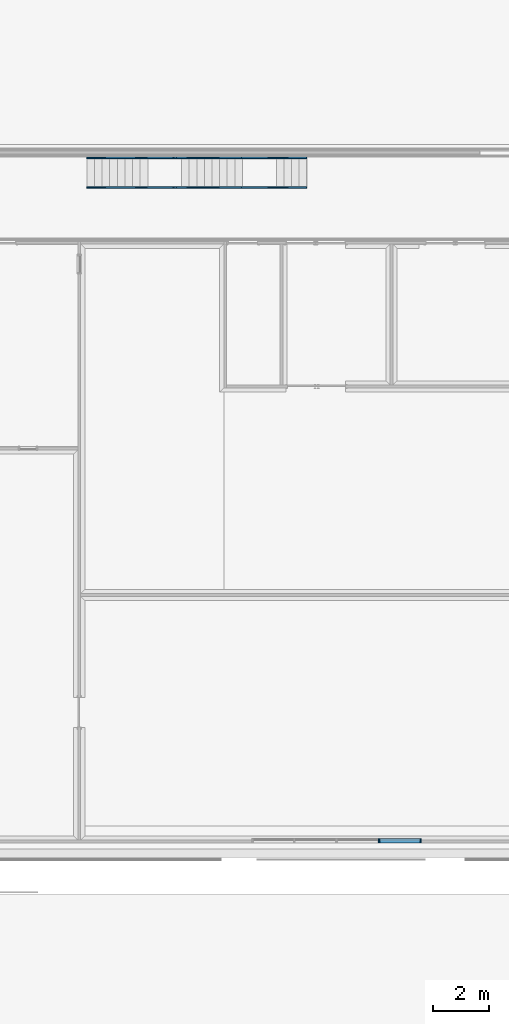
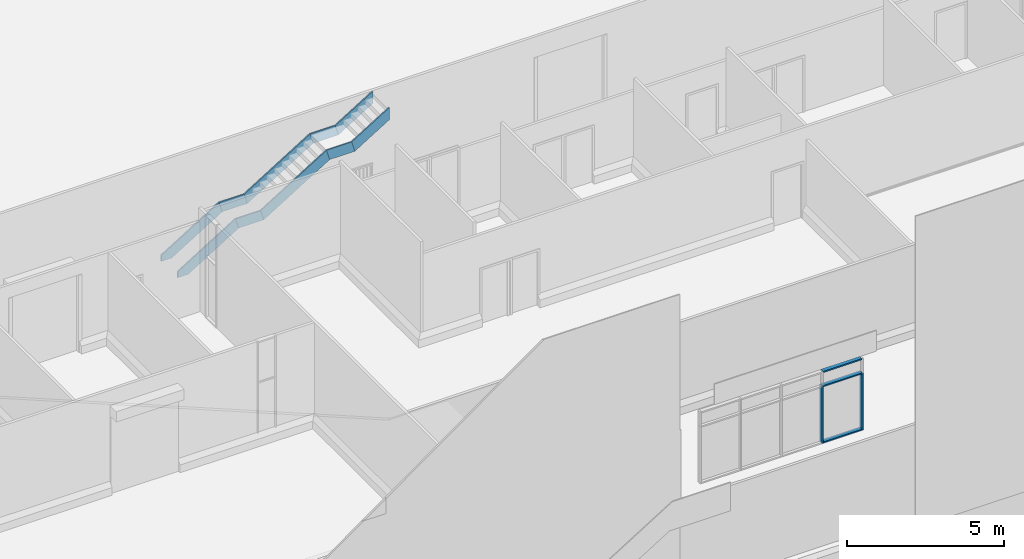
# One storey, part 5 of 64: 15 members, 2 elements without a shape of their own.
"""IFC2X3 building model written with IfcOpenShell, lengths in millimetres."""

from ifc_helpers import new_model, entity, si_unit, converted_unit, derived_unit, direction, frame, frame_2d, origin, origin_2d_with_axis, place, context, subcontext, project, spatial, polyline, rectangle, outline, extrude, material, type_object, element, aggregate, save


model = new_model("IFC2X3")

# Units and contexts
model_context = context("Model", 3, precision=0.01, world=origin(), true_north=direction((4.05803320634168e-15, -1.0)))
body_context = subcontext(model_context, "Body", "Model", "MODEL_VIEW")
ifc_project = project(units=[si_unit("LENGTHUNIT", "METRE", prefix="MILLI"), si_unit("AREAUNIT", "SQUARE_METRE"), si_unit("VOLUMEUNIT", "CUBIC_METRE"), converted_unit("PLANEANGLEUNIT", "DEGREE", entity("IfcRatioMeasure", 0.0174532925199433), si_unit("PLANEANGLEUNIT", "RADIAN"), dimensions=[0, 0, 0, 0, 0, 0, 0]), si_unit("MASSUNIT", "GRAM", prefix="KILO"), derived_unit("MASSDENSITYUNIT", [(si_unit("MASSUNIT", "GRAM", prefix="KILO"), 1), (si_unit("LENGTHUNIT", "METRE"), -3)]), si_unit("TIMEUNIT", "SECOND"), si_unit("FREQUENCYUNIT", "HERTZ"), si_unit("THERMODYNAMICTEMPERATUREUNIT", "DEGREE_CELSIUS"), derived_unit("THERMALTRANSMITTANCEUNIT", [(si_unit("MASSUNIT", "GRAM", prefix="KILO"), 1), (si_unit("THERMODYNAMICTEMPERATUREUNIT", "KELVIN"), -1), (si_unit("TIMEUNIT", "SECOND"), -3)]), derived_unit("VOLUMETRICFLOWRATEUNIT", [(si_unit("LENGTHUNIT", "METRE"), 3), (si_unit("TIMEUNIT", "SECOND"), -1)]), si_unit("ELECTRICCURRENTUNIT", "AMPERE"), si_unit("ELECTRICVOLTAGEUNIT", "VOLT"), si_unit("POWERUNIT", "WATT"), si_unit("FORCEUNIT", "NEWTON", prefix="KILO"), si_unit("ILLUMINANCEUNIT", "LUX"), si_unit("LUMINOUSFLUXUNIT", "LUMEN"), si_unit("LUMINOUSINTENSITYUNIT", "CANDELA"), derived_unit("USERDEFINED", [(si_unit("MASSUNIT", "GRAM", prefix="KILO"), -1), (si_unit("LENGTHUNIT", "METRE"), -2), (si_unit("TIMEUNIT", "SECOND"), 3), (si_unit("LUMINOUSFLUXUNIT", "LUMEN"), 1)]), derived_unit("LINEARVELOCITYUNIT", [(si_unit("LENGTHUNIT", "METRE"), 1), (si_unit("TIMEUNIT", "SECOND"), -1)]), si_unit("PRESSUREUNIT", "PASCAL"), derived_unit("USERDEFINED", [(si_unit("LENGTHUNIT", "METRE"), -2), (si_unit("MASSUNIT", "GRAM", prefix="KILO"), 1), (si_unit("TIMEUNIT", "SECOND"), -2)])], contexts=[model_context])

# Site, building, storey
site_placement = place(None, frame((927466.849349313, 583801.882853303, 0.0), z_axis=(0.0, 0.0, 1.0), x_axis=(-1.0, 0.0, 0.0)))
site = spatial("IfcSite", under=ifc_project, at=site_placement, Name="Surface", CompositionType="ELEMENT")
building_placement = place(site_placement, origin())
building = spatial("IfcBuilding", under=site, at=building_placement, CompositionType="ELEMENT")
storey_placement = place(building_placement, frame((0.0, 0.0, 44170.0)))
storey = spatial("IfcBuildingStorey", under=building, at=storey_placement, Name="Ground FFL", CompositionType="ELEMENT", Elevation=44170.0)

# Stair, members
stair_placement = place(storey_placement, origin())
stair = element("IfcStair", 1, at=stair_placement, inside=storey, Name="Assembled Stair:Stair", ObjectType="Assembled Stair:170mm max riser 270mm going", ShapeType="NOTDEFINED")
member_type = type_object("IfcMemberType", Name="Stringer:Stringer - 50mm Width", PredefinedType="STRINGER")
member_1_placement = place(stair_placement, origin())
member_1 = element("IfcMember", 2, at=member_1_placement, type_object=member_type, Name="Assembled Stair:Stair:621048 Stringer 1", ObjectType="Assembled Stair:170mm max riser 270mm going", context=body_context, shape_type="SweptSolid", body=[
    extrude(outline(polyline([(-949.937857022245, -587.215608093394), (-570.870001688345, -587.215608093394), (1292.12999831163, 562.784391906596), (1178.61571742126, 962.7843919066), (-949.937857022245, -351.137567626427), (-949.937857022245, -587.215608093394)])), frame((-106118.932358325, 13172.4703497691, 587.215608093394), z_axis=(0.0, 1.0, 0.0), x_axis=(-1.0, 0.0, 0.0)), (0.0, 0.0, 1.0), 49.9999999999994),
])
member_2_placement = place(stair_placement, origin())
member_2 = element("IfcMember", 3, at=member_2_placement, type_object=member_type, Name="Assembled Stair:Stair:621048 Stringer 2", ObjectType="Assembled Stair:170mm max riser 270mm going", context=body_context, shape_type="SweptSolid", body=[
    extrude(outline(polyline([(-949.937857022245, -587.215608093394), (-570.870001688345, -587.215608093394), (1292.12999831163, 562.784391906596), (1178.61571742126, 962.7843919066), (-949.937857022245, -351.137567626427), (-949.937857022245, -587.215608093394)])), frame((-106118.932358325, 12122.4703497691, 587.215608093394), z_axis=(0.0, 1.0, 0.0), x_axis=(-1.0, 0.0, 0.0)), (0.0, 0.0, 1.0), 49.9999999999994),
])
member_3_placement = place(stair_placement, origin())
member_3 = element("IfcMember", 4, at=member_3_placement, type_object=member_type, Name="Assembled Stair:Stair:621048 Stringer 3", ObjectType="Assembled Stair:170mm max riser 270mm going", context=body_context, shape_type="SweptSolid", body=[
    extrude(outline(polyline([(-1484.59641711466, -200.0), (1371.08213622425, -200.0), (1484.59641711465, 200.0), (-1371.08213622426, 200.0), (-1484.59641711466, -200.0)])), frame((-109499.250726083, 13172.4703497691, 2100.0), z_axis=(0.0, 1.0, 0.0), x_axis=(-0.850936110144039, 0.0, 0.525269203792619)), (0.0, 0.0, 1.0), 49.9999999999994),
])
member_4_placement = place(stair_placement, origin())
member_4 = element("IfcMember", 5, at=member_4_placement, type_object=member_type, Name="Assembled Stair:Stair:621048 Stringer 4", ObjectType="Assembled Stair:170mm max riser 270mm going", context=body_context, shape_type="SweptSolid", body=[
    extrude(outline(polyline([(-1484.59641711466, -200.0), (1371.08213622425, -200.0), (1484.59641711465, 200.0), (-1371.08213622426, 200.0), (-1484.59641711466, -200.0)])), frame((-109499.250726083, 12122.4703497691, 2100.0), z_axis=(0.0, 1.0, 0.0), x_axis=(-0.850936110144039, 0.0, 0.525269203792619)), (0.0, 0.0, 1.0), 49.9999999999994),
])
member_5_placement = place(stair_placement, origin())
member_5 = element("IfcMember", 6, at=member_5_placement, type_object=member_type, Name="Assembled Stair:Stair:621048 Stringer 5", ObjectType="Assembled Stair:170mm max riser 270mm going", context=body_context, shape_type="SweptSolid", body=[
    extrude(outline(polyline([(-408.215614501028, -200.0), (521.729895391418, -200.0), (408.215614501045, 200.0), (-521.7298953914, 200.0), (-408.215614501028, -200.0)])), frame((-107819.277971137, 13172.4703497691, 1350.0), z_axis=(0.0, 1.0, 0.0), x_axis=(-1.0, 0.0, 0.0)), (0.0, 0.0, 1.0), 49.9999999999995),
])
member_6_placement = place(stair_placement, origin())
member_6 = element("IfcMember", 7, at=member_6_placement, type_object=member_type, Name="Assembled Stair:Stair:621048 Stringer 6", ObjectType="Assembled Stair:170mm max riser 270mm going", context=body_context, shape_type="SweptSolid", body=[
    extrude(outline(polyline([(-408.215614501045, -200.0), (521.7298953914, -200.0), (408.215614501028, 200.0), (-521.729895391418, 200.0), (-408.215614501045, -200.0)])), frame((-107819.277971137, 12122.4703497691, 1350.0), z_axis=(0.0, 1.0, 0.0), x_axis=(1.0, 0.0, 0.0)), (0.0, 0.0, 1.0), 49.9999999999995),
])
member_7_placement = place(stair_placement, origin())
member_7 = element("IfcMember", 8, at=member_7_placement, type_object=member_type, Name="Assembled Stair:Stair:621048 Stringer 7", ObjectType="Assembled Stair:170mm max riser 270mm going", context=body_context, shape_type="SweptSolid", body=[
    extrude(outline(polyline([(-835.128906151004, -200.0), (654.914975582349, -200.0), (901.828555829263, 200.0), (-721.614625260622, 200.0), (-835.128906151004, -200.0)])), frame((-112306.595368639, 13172.4703497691, 3258.85471762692), z_axis=(0.0, 1.0, 0.0), x_axis=(-0.850936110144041, 0.0, 0.525269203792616)), (0.0, 0.0, 1.0), 49.9999999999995),
])
member_8_placement = place(stair_placement, origin())
member_8 = element("IfcMember", 9, at=member_8_placement, type_object=member_type, Name="Assembled Stair:Stair:621048 Stringer 8", ObjectType="Assembled Stair:170mm max riser 270mm going", context=body_context, shape_type="SweptSolid", body=[
    extrude(outline(polyline([(-835.128906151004, -200.0), (654.914975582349, -200.0), (901.828555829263, 200.0), (-721.614625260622, 200.0), (-835.128906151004, -200.0)])), frame((-112306.595368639, 12122.4703497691, 3258.85471762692), z_axis=(0.0, 1.0, 0.0), x_axis=(-0.850936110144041, 0.0, 0.525269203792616)), (0.0, 0.0, 1.0), 49.9999999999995),
])
member_9_placement = place(stair_placement, origin())
member_9 = element("IfcMember", 10, at=member_9_placement, type_object=member_type, Name="Assembled Stair:Stair:621048 Stringer 9", ObjectType="Assembled Stair:170mm max riser 270mm going", context=body_context, shape_type="SweptSolid", body=[
    extrude(outline(polyline([(-408.242859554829, -200.0), (521.757140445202, -200.0), (408.242859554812, 200.0), (-521.757140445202, 200.0), (-408.242859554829, -200.0)])), frame((-111179.250726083, 13172.4703497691, 2850.0), z_axis=(0.0, 1.0, 0.0), x_axis=(-1.0, 0.0, 0.0)), (0.0, 0.0, 1.0), 49.9999999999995),
])
member_10_placement = place(stair_placement, origin())
member_10 = element("IfcMember", 11, at=member_10_placement, type_object=member_type, Name="Assembled Stair:Stair:621048 Stringer 10", ObjectType="Assembled Stair:170mm max riser 270mm going", context=body_context, shape_type="SweptSolid", body=[
    extrude(outline(polyline([(-408.242859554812, -200.0), (521.757140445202, -200.0), (408.242859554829, 200.0), (-521.757140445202, 200.0), (-408.242859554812, -200.0)])), frame((-111179.250726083, 12122.4703497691, 2850.0), z_axis=(0.0, 1.0, 0.0), x_axis=(1.0, 0.0, 0.0)), (0.0, 0.0, 1.0), 49.9999999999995),
])
aggregate(stair, [member_1, member_2, member_3, member_4, member_5, member_6, member_7, member_8, member_9, member_10])

# Curtain wall, members
curtain_wall_type = type_object("IfcCurtainWallType", Name="Curtain Wall:Storefront", PredefinedType="NOTDEFINED")
curtain_wall_placement = place(storey_placement, frame((0.0, 0.0, -44170.0)))
curtain_wall = element("IfcCurtainWall", 12, at=curtain_wall_placement, inside=storey, type_object=curtain_wall_type, Name="Curtain Wall:Storefront", ObjectType="Curtain Wall:Storefront")
ifc_material = material(Name="Aluminium")
member_11_placement = place(curtain_wall_placement, frame((0.0, 0.0, 44170.0)))
member_11 = element("IfcMember", 13, at=member_11_placement, material=ifc_material, Name="Curtain Wall:Storefront:8486", ObjectType="Curtain Wall:Storefront:8486", context=body_context, shape_type="SweptSolid", body=[
    extrude(rectangle(XDim=49.9999999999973, YDim=150.000000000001, at=frame_2d((4.33075797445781e-12, 8.66151594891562e-12), x_axis=(1.0, 0.0))), frame((-116991.96508372, 36380.9699019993, 6775.0), z_axis=(1.0, 0.0, 0.0), x_axis=(0.0, 0.0, -1.0)), (0.0, 0.0, 1.0), 1429.81862789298),
])
member_12_placement = place(curtain_wall_placement, frame((0.0, 0.0, 44170.0)))
member_12 = element("IfcMember", 14, at=member_12_placement, material=ifc_material, Name="Curtain Wall:Storefront:8486", ObjectType="Curtain Wall:Storefront:8486", context=body_context, shape_type="SweptSolid", body=[
    extrude(rectangle(XDim=50.000000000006, YDim=150.000000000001, at=frame_2d((-8.66329230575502e-12, 0.0), x_axis=(1.0, 0.0))), frame((-117016.96508372, 36380.9699019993, 4000.0), z_axis=(0.0, 0.0, 1.0), x_axis=(-1.0, 0.0, 0.0)), (0.0, 0.0, 1.0), 2220.0),
])
member_13_placement = place(curtain_wall_placement, frame((0.0, 0.0, 44170.0)))
member_13 = element("IfcMember", 15, at=member_13_placement, material=ifc_material, Name="Curtain Wall:Storefront:8486", ObjectType="Curtain Wall:Storefront:8486", context=body_context, shape_type="SweptSolid", body=[
    extrude(rectangle(XDim=49.9999999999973, YDim=150.000000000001, at=frame_2d((-4.33075797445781e-12, 8.66151594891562e-12), x_axis=(1.0, 0.0))), frame((-115562.146455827, 36380.9699019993, 4025.0), z_axis=(-1.0, 0.0, 0.0), x_axis=(0.0, 0.0, -1.0)), (0.0, 0.0, 1.0), 1429.81862789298),
])
member_14_placement = place(curtain_wall_placement, frame((0.0, 0.0, 44170.0)))
member_14 = element("IfcMember", 16, at=member_14_placement, material=ifc_material, Name="Curtain Wall:Storefront:8486", ObjectType="Curtain Wall:Storefront:8486", context=body_context, shape_type="SweptSolid", body=[
    extrude(rectangle(XDim=49.9999999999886, YDim=150.000000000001, at=origin_2d_with_axis()), frame((-115537.146455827, 36380.9699019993, 4000.0), z_axis=(0.0, 0.0, 1.0), x_axis=(-1.0, 0.0, 0.0)), (0.0, 0.0, 1.0), 2220.0),
])
member_15_placement = place(curtain_wall_placement, frame((0.0, 0.0, 44170.0)))
member_15 = element("IfcMember", 17, at=member_15_placement, material=ifc_material, Name="Curtain Wall:Storefront:8486", ObjectType="Curtain Wall:Storefront:8486", context=body_context, shape_type="SweptSolid", body=[
    extrude(rectangle(XDim=50.000000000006, YDim=150.000000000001, at=frame_2d((0.0, 8.66151594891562e-12), x_axis=(1.0, 0.0))), frame((-116991.96508372, 36380.9699019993, 6220.0), z_axis=(1.0, 0.0, 0.0), x_axis=(0.0, 0.0, -1.0)), (0.0, 0.0, 1.0), 1429.81862789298),
])
aggregate(curtain_wall, [member_11, member_12, member_13, member_14, member_15])

save(model, "model.ifc")
